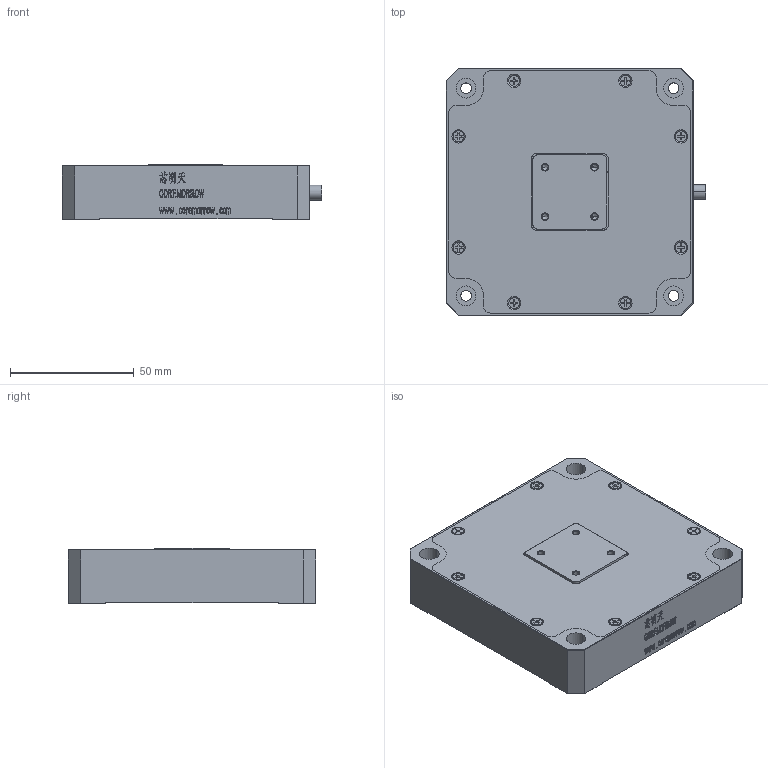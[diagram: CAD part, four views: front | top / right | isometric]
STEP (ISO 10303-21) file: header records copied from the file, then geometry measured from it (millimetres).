
FILE_DESCRIPTION (( 'STEP AP203' ), '1' );
FILE_NAME ('P60.X250S-B1奻換欴聊20260519.STEP', '2026-05-19T01:47:42', ( '' ), ( '' ), 'SwSTEP 2.0', 'SolidWorks 2016', '' );
FILE_SCHEMA (( 'CONFIG_CONTROL_DESIGN' ));
Products named in the file (1): P60.X250S-B1奻換欴聊20260519
Bounding box: 105 x 100 x 22.5 mm (x, y, z)
Volume: 112682.7 mm3; surface area: 66261.4 mm2
Topology: 21 solids, 21 shells, 1586 faces, 4235 edges, 2736 vertices
Faces by surface type: plane 823, bspline 309, cylinder 300, cone 154
Entity records: 63204 total; most frequent: CARTESIAN_POINT 25315, ORIENTED_EDGE 8374, DIRECTION 6811, EDGE_CURVE 4187, VECTOR 2883, LINE 2883, VERTEX_POINT 2736, AXIS2_PLACEMENT_3D 1964
